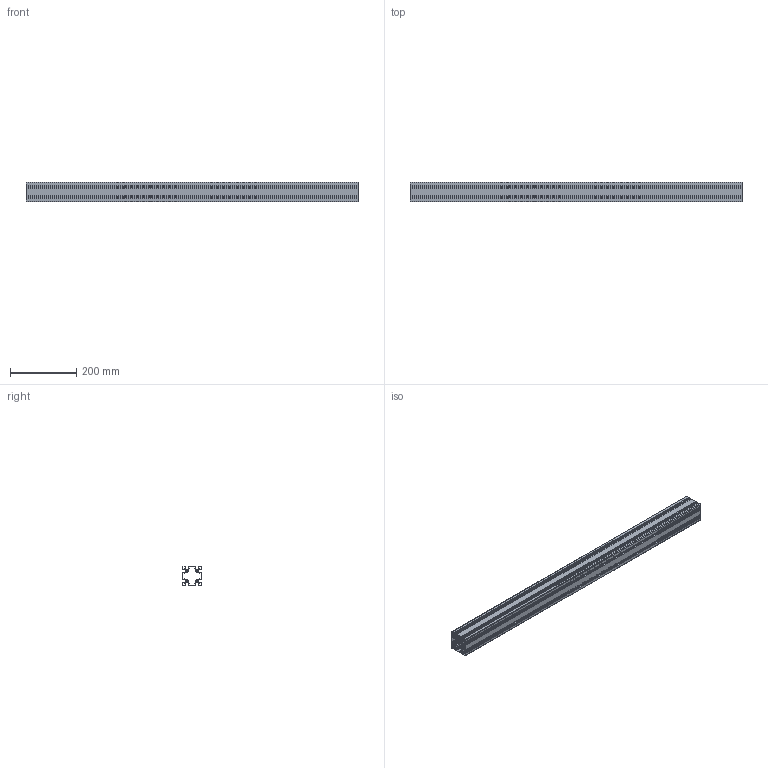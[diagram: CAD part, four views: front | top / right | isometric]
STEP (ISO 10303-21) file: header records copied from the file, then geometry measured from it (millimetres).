
FILE_DESCRIPTION (( 'STEP AP203' ), '1' );
FILE_NAME ('F366K.step', '2017-04-26T04:12:16', ( 'sr-d11' ), ( 'MouseComputer PC' ), 'SwSTEP 2.0', 'SolidWorks 2014', '' );
FILE_SCHEMA (( 'CONFIG_CONTROL_DESIGN' ));
Length unit declared in the file: millimetre
Products named in the file (1): F366K
Bounding box: 1000 x 60 x 60 mm (x, y, z)
Volume: 653144.6 mm3; surface area: 863315.7 mm2
Topology: 1 solids, 1 shells, 419 faces, 1251 edges, 834 vertices
Faces by surface type: cylinder 237, plane 182
Entity records: 14372 total; most frequent: DIRECTION 2565, CARTESIAN_POINT 2505, ORIENTED_EDGE 2502, EDGE_CURVE 1251, AXIS2_PLACEMENT_3D 894, VERTEX_POINT 834, LINE 777, VECTOR 777
